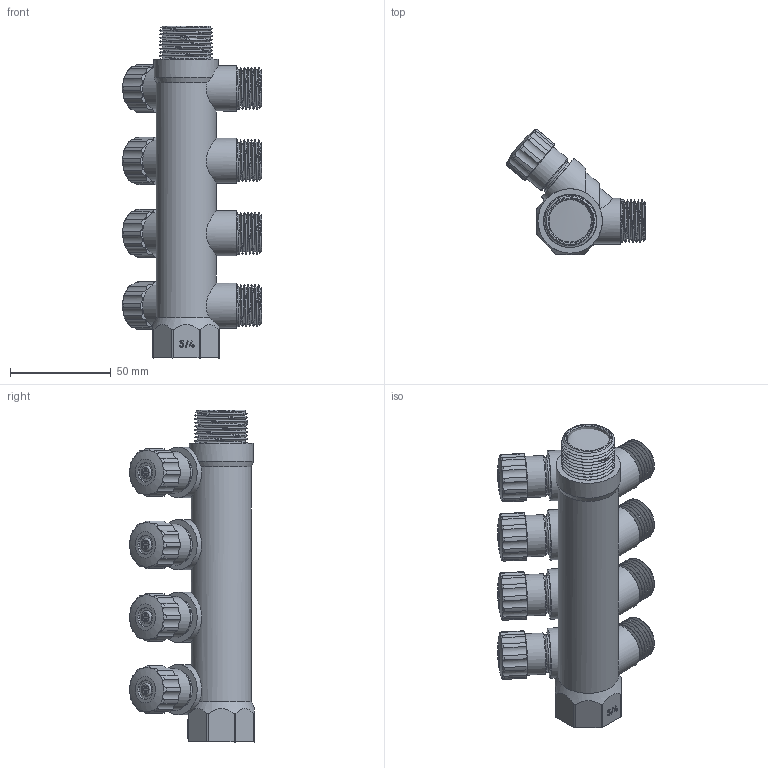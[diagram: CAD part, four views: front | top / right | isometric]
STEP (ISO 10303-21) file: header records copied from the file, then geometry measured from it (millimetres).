
FILE_DESCRIPTION(/* description */ (''),/* implementation_level */ '2;1');
FILE_NAME(/* name */ 'H:\Мишенин_3D\Исходные файлы 3D\VTc.560.N.0504.stp',/* time_stamp */ '2019-07-24T16:23:37+03:00',/* author */ ('misheninal'),/* organization */ (''),/* preprocessor_version */ 'ST-DEVELOPER v18',/* originating_system */ 'Autodesk Inventor 2020',/* authorisation */ '');
FILE_SCHEMA (('AUTOMOTIVE_DESIGN { 1 0 10303 214 3 1 1 }'));
Length unit declared in the file: millimetre
Products named in the file (1): VT.580_3%4_1%2-4
Bounding box: 69.21 x 62.25 x 165 mm (x, y, z)
Volume: 110558.3 mm3; surface area: 59145.9 mm2
Topology: 1 solids, 1 shells, 573 faces, 1621 edges, 1093 vertices
Faces by surface type: cylinder 260, plane 159, bspline 62, torus 57, cone 35
Full cylindrical faces by diameter (mm): 9.679 x4, 10.5 x4, 15.1 x4, 16.1 x4, 17.4 x24, 18.621 x4, 20.621 x4, 21 x21, 22.5 x4, 22.8 x9, 24.2 x3, 25 x4, 26.4 x9, 27.5 x2, 27.8 x7, 30 x1, 32 x1
Entity records: 32625 total; most frequent: CARTESIAN_POINT 18461, ORIENTED_EDGE 3242, DIRECTION 2588, EDGE_CURVE 1621, VERTEX_POINT 1093, AXIS2_PLACEMENT_3D 1006, EDGE_LOOP 626, LINE 576
